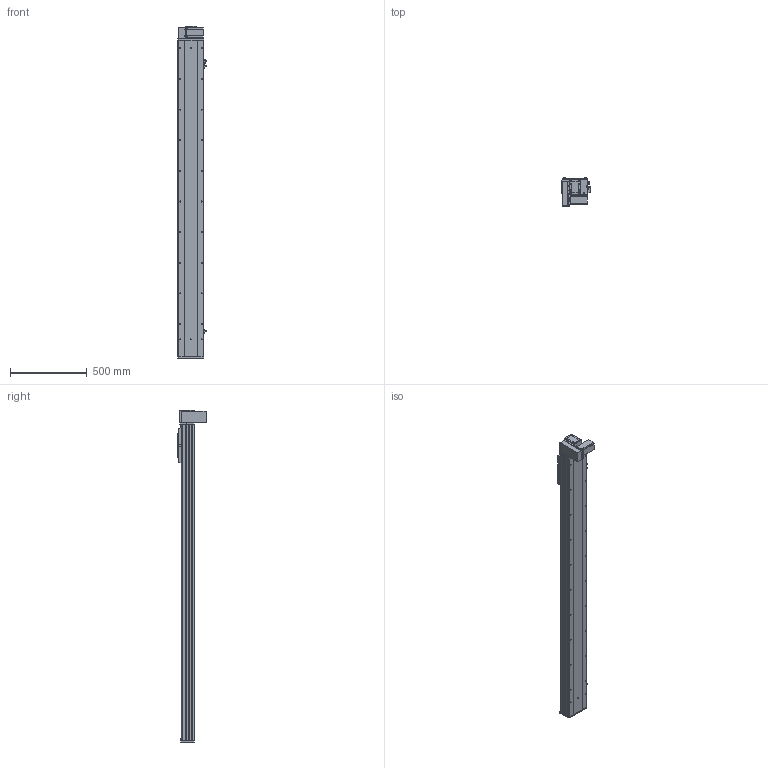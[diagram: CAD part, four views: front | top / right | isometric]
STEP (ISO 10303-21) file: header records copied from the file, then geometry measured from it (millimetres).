
FILE_DESCRIPTION (( 'STEP AP203' ), '1' );
FILE_NAME ('Y170CB-D105-S1750-BM-P400W.STEP', '2020-02-20T07:10:44', ( '微软用户' ), ( '微软中国' ), 'SwSTEP 2.0', 'SolidWorks 2017', '' );
FILE_SCHEMA (( 'CONFIG_CONTROL_DESIGN' ));
Length unit declared in the file: millimetre
Products named in the file (18): 70CB-掛极-; Y170CB-陔俋离換覜結え---; --70CB --喘謫眊楊擘啣-; Y1埴倛裔; 70CB-耜裔啣-; 17B-耜蚾蟀諉啣----; 70C--詩湍揤踡え-; 00B-俋欶BM--163; 70CB--耜裔; 70B喘謫眊----; 70C-雄赽釱-奻-; B-源倛裔啣; Y170CB-D105-S1750-BM-P400W; 0C--雄赽釱俋欶-170; 0B-萇儂楊擘啣; 70CB-詩湍--; san松下电机400不带刹车----; Y100-135俋离換覜ん--
Assembly tree (21 placements, depth 2):
  Y170CB-D105-S1750-BM-P400W
    B-源倛裔啣
    0B-萇儂楊擘啣
    san松下电机400不带刹车----
    70CB-掛极-
    --70CB --喘謫眊楊擘啣-
    70CB-耜裔啣-  x2
    70C--詩湍揤踡え-  x2
    70CB--耜裔
    70C-雄赽釱-奻-
    0C--雄赽釱俋欶-170
    70CB-詩湍--
    Y100-135俋离換覜ん--  x3
    Y170CB-陔俋离換覜結え---
    Y1埴倛裔
    17B-耜蚾蟀諉啣----
    00B-俋欶BM--163
    70B喘謫眊----
Bounding box: 183.5 x 184 x 2166 mm (x, y, z)
Volume: 9492244.5 mm3; surface area: 3419104.2 mm2
Topology: 21 solids, 21 shells, 1039 faces, 2789 edges, 1850 vertices
Faces by surface type: cylinder 553, plane 462, cone 24
Entity records: 33204 total; most frequent: CARTESIAN_POINT 6096, DIRECTION 5402, ORIENTED_EDGE 5060, EDGE_CURVE 2530, AXIS2_PLACEMENT_3D 1988, VERTEX_POINT 1680, LINE 1426, VECTOR 1426
